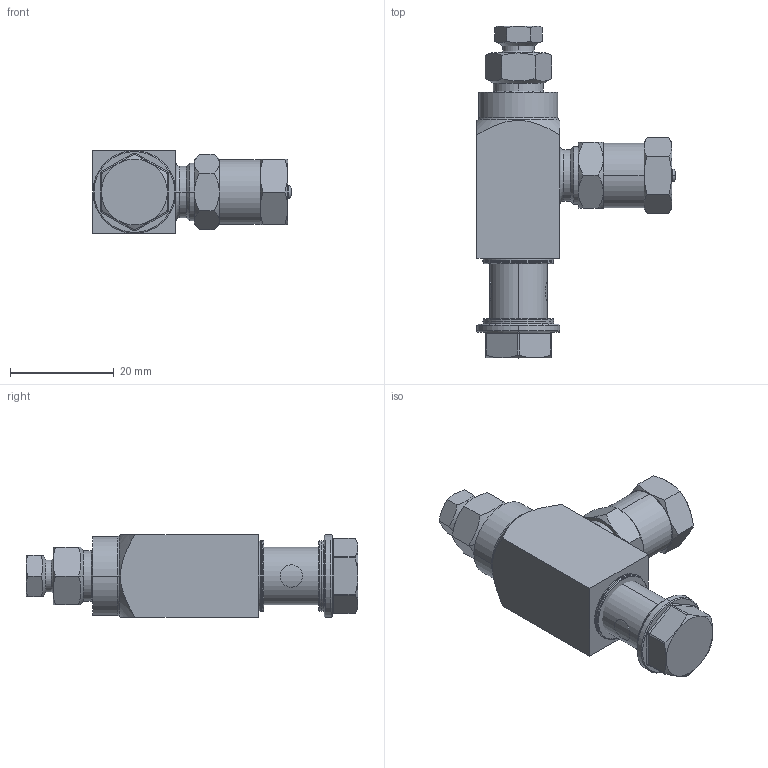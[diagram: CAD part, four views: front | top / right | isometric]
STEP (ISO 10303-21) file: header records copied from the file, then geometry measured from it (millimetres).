
FILE_DESCRIPTION((''),'2;1');
FILE_NAME('24W483-EN-B_PRT','2019-12-31T18:31:25',('qusrh3'),(''),'CREO PARAMETRIC BY PTC INC, 2019030','CREO PARAMETRIC BY PTC INC, 2019030','');
FILE_SCHEMA(('CONFIG_CONTROL_DESIGN'));
Length unit declared in the file: inch
Products named in the file (1): 24W483-EN-B_PRT
Bounding box: 38.22 x 64.06 x 16 mm (x, y, z)
Surface area: 7312.6 mm2 (no closed solid volume)
Topology: 0 solids, 19 shells, 174 faces, 390 edges, 234 vertices
Faces by surface type: cone 56, plane 52, cylinder 46, torus 20
Entity records: 5448 total; most frequent: CARTESIAN_POINT 1742, DIRECTION 770, ORIENTED_EDGE 730, EDGE_CURVE 390, AXIS2_PLACEMENT_3D 330, VERTEX_POINT 234, EDGE_LOOP 174, FACE_OUTER_BOUND 174
